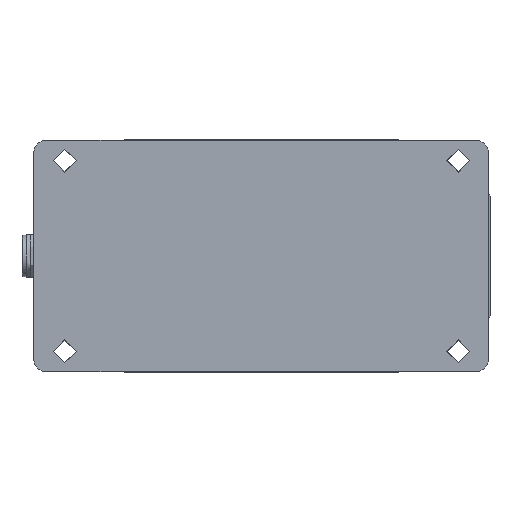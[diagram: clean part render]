
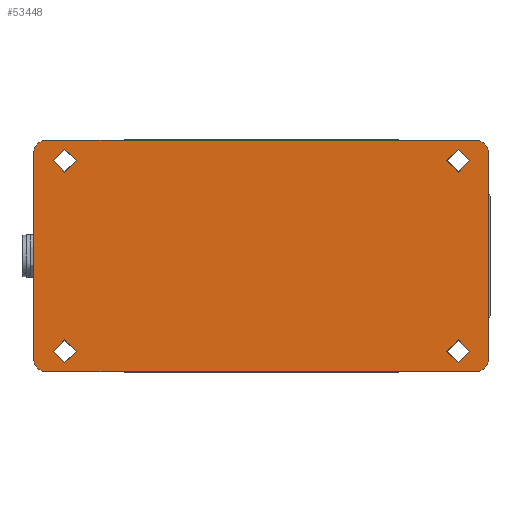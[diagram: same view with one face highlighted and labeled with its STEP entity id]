
A CAD part, front view. The second image highlights one B-rep face of the part: STEP entity #53448.
In plain terms, the highlighted planar face has unit normal (0, -1, 0).
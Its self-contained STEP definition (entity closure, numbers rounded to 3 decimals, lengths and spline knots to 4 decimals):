
#263=ELLIPSE('',#55911,0.1181,0.1181);
#264=ELLIPSE('',#55917,0.1181,0.1181);
#265=ELLIPSE('',#55918,0.1181,0.1181);
#266=ELLIPSE('',#55919,0.1181,0.1181);
#809=CIRCLE('',#55913,0.111);
#810=CIRCLE('',#55914,0.111);
#811=CIRCLE('',#55915,0.111);
#812=CIRCLE('',#55916,0.111);
#1266=FACE_BOUND('',#8831,.T.);
#1267=FACE_BOUND('',#8832,.T.);
#1268=FACE_BOUND('',#8833,.T.);
#1269=FACE_BOUND('',#8834,.T.);
#1270=FACE_BOUND('',#8835,.T.);
#3020=PLANE('',#55912);
#8831=EDGE_LOOP('',(#46916));
#8832=EDGE_LOOP('',(#46917));
#8833=EDGE_LOOP('',(#46918));
#8834=EDGE_LOOP('',(#46919));
#8835=EDGE_LOOP('',(#46920,#46921,#46922,#46923,#46924,#46925,#46926,#46927));
#13950=LINE('',#90618,#19058);
#13965=LINE('',#90667,#19073);
#13966=LINE('',#90672,#19074);
#13967=LINE('',#90675,#19075);
#19058=VECTOR('',#65799,1.9999);
#19073=VECTOR('',#65848,4.1564);
#19074=VECTOR('',#65853,4.1564);
#19075=VECTOR('',#65856,1.9999);
#25464=VERTEX_POINT('',#90615);
#25465=VERTEX_POINT('',#90617);
#25476=VERTEX_POINT('',#90652);
#25477=VERTEX_POINT('',#90654);
#25478=VERTEX_POINT('',#90658);
#25479=VERTEX_POINT('',#90660);
#25480=VERTEX_POINT('',#90662);
#25481=VERTEX_POINT('',#90664);
#25482=VERTEX_POINT('',#90666);
#25483=VERTEX_POINT('',#90669);
#25484=VERTEX_POINT('',#90671);
#25485=VERTEX_POINT('',#90673);
#32640=EDGE_CURVE('',#25465,#25464,#13950,.F.);
#32658=EDGE_CURVE('',#25476,#25477,#263,.T.);
#32660=EDGE_CURVE('',#25478,#25478,#809,.T.);
#32661=EDGE_CURVE('',#25479,#25479,#810,.T.);
#32662=EDGE_CURVE('',#25480,#25480,#811,.T.);
#32663=EDGE_CURVE('',#25481,#25481,#812,.T.);
#32664=EDGE_CURVE('',#25476,#25482,#13965,.F.);
#32665=EDGE_CURVE('',#25465,#25482,#264,.T.);
#32666=EDGE_CURVE('',#25483,#25464,#265,.T.);
#32667=EDGE_CURVE('',#25483,#25484,#13966,.F.);
#32668=EDGE_CURVE('',#25485,#25484,#266,.T.);
#32669=EDGE_CURVE('',#25485,#25477,#13967,.F.);
#46916=ORIENTED_EDGE('',*,*,#32660,.T.);
#46917=ORIENTED_EDGE('',*,*,#32661,.T.);
#46918=ORIENTED_EDGE('',*,*,#32662,.T.);
#46919=ORIENTED_EDGE('',*,*,#32663,.T.);
#46920=ORIENTED_EDGE('',*,*,#32658,.F.);
#46921=ORIENTED_EDGE('',*,*,#32664,.T.);
#46922=ORIENTED_EDGE('',*,*,#32665,.F.);
#46923=ORIENTED_EDGE('',*,*,#32640,.T.);
#46924=ORIENTED_EDGE('',*,*,#32666,.F.);
#46925=ORIENTED_EDGE('',*,*,#32667,.T.);
#46926=ORIENTED_EDGE('',*,*,#32668,.F.);
#46927=ORIENTED_EDGE('',*,*,#32669,.T.);
#53448=ADVANCED_FACE('',(#1266,#1267,#1268,#1269,#1270),#3020,.T.);
#55911=AXIS2_PLACEMENT_3D('',#90655,#65835,#65836);
#55912=AXIS2_PLACEMENT_3D('',#90657,#65838,#65839);
#55913=AXIS2_PLACEMENT_3D('',#90659,#65840,#65841);
#55914=AXIS2_PLACEMENT_3D('',#90661,#65842,#65843);
#55915=AXIS2_PLACEMENT_3D('',#90663,#65844,#65845);
#55916=AXIS2_PLACEMENT_3D('',#90665,#65846,#65847);
#55917=AXIS2_PLACEMENT_3D('',#90668,#65849,#65850);
#55918=AXIS2_PLACEMENT_3D('',#90670,#65851,#65852);
#55919=AXIS2_PLACEMENT_3D('',#90674,#65854,#65855);
#65799=DIRECTION('',(0.,0.,1.));
#65835=DIRECTION('center_axis',(0.,1.,0.));
#65836=DIRECTION('ref_axis',(0.707,0.,0.707));
#65838=DIRECTION('center_axis',(0.,-1.,0.));
#65839=DIRECTION('ref_axis',(-1.,0.,0.));
#65840=DIRECTION('center_axis',(0.,1.,0.));
#65841=DIRECTION('ref_axis',(0.,0.,
1.));
#65842=DIRECTION('center_axis',(0.,1.,0.));
#65843=DIRECTION('ref_axis',(0.,0.,
1.));
#65844=DIRECTION('center_axis',(0.,1.,0.));
#65845=DIRECTION('ref_axis',(0.,0.,
1.));
#65846=DIRECTION('center_axis',(0.,1.,0.));
#65847=DIRECTION('ref_axis',(0.,0.,
1.));
#65848=DIRECTION('',(1.,0.,0.));
#65849=DIRECTION('center_axis',(0.,1.,0.));
#65850=DIRECTION('ref_axis',(-0.707,0.,
0.707));
#65851=DIRECTION('center_axis',(0.,1.,0.));
#65852=DIRECTION('ref_axis',(-0.707,0.,
-0.707));
#65853=DIRECTION('',(-1.,0.,0.));
#65854=DIRECTION('center_axis',(0.,1.,0.));
#65855=DIRECTION('ref_axis',(0.707,0.,-0.707));
#65856=DIRECTION('',(0.,0.,-1.));
#90615=CARTESIAN_POINT('',(-2.2004,-0.3543,-1.));
#90617=CARTESIAN_POINT('',(-2.2004,-0.3543,1.));
#90618=CARTESIAN_POINT('',(-2.2004,-0.3543,-0.5491));
#90652=CARTESIAN_POINT('',(2.0741,-0.3543,1.1181));
#90654=CARTESIAN_POINT('',(2.1922,-0.3543,1.));
#90655=CARTESIAN_POINT('Origin',(2.0741,-0.3543,0.9999));
#90657=CARTESIAN_POINT('Origin',(0.,-0.3543,
0.));
#90658=CARTESIAN_POINT('',(1.8995,-0.3543,-1.032));
#90659=CARTESIAN_POINT('Origin',(1.8995,-0.3543,-0.921));
#90660=CARTESIAN_POINT('',(-1.8995,-0.3543,0.81));
#90661=CARTESIAN_POINT('Origin',(-1.8995,-0.3543,0.921));
#90662=CARTESIAN_POINT('',(-1.8995,-0.3543,-1.032));
#90663=CARTESIAN_POINT('Origin',(-1.8995,-0.3543,-0.921));
#90664=CARTESIAN_POINT('',(1.8995,-0.3543,0.81));
#90665=CARTESIAN_POINT('Origin',(1.8995,-0.3543,0.921));
#90666=CARTESIAN_POINT('',(-2.0823,-0.3543,1.1181));
#90667=CARTESIAN_POINT('',(-1.0975,-0.3543,1.1181));
#90668=CARTESIAN_POINT('Origin',(-2.0823,-0.3543,0.9999));
#90669=CARTESIAN_POINT('',(-2.0823,-0.3543,-1.1181));
#90670=CARTESIAN_POINT('Origin',(-2.0823,-0.3543,-0.9999));
#90671=CARTESIAN_POINT('',(2.0741,-0.3543,-1.1181));
#90672=CARTESIAN_POINT('',(1.0975,-0.3543,-1.1181));
#90673=CARTESIAN_POINT('',(2.1922,-0.3543,-1.));
#90674=CARTESIAN_POINT('Origin',(2.0741,-0.3543,-0.9999));
#90675=CARTESIAN_POINT('',(2.1922,-0.3543,0.5491));
